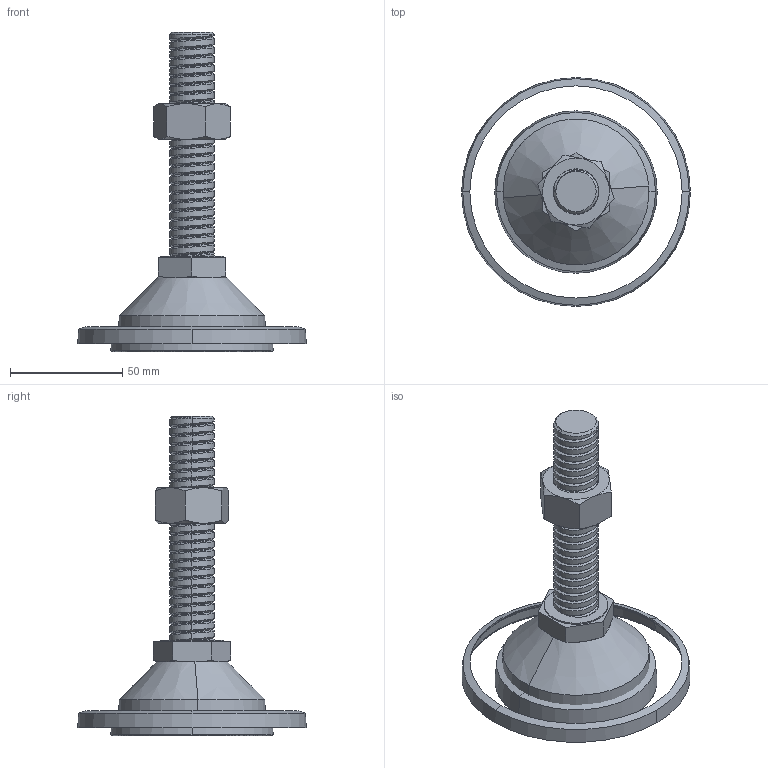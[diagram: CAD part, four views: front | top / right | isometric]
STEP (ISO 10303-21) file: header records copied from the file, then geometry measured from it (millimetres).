
FILE_DESCRIPTION (( 'STEP AP203' ), '1' );
FILE_NAME ('F106-1-20-L2.STEP', '2015-11-24T01:51:31', ( '' ), ( '' ), 'SwSTEP 2.0', 'SolidWorks 2014', '' );
FILE_SCHEMA (( 'CONFIG_CONTROL_DESIGN' ));
Length unit declared in the file: millimetre
Products named in the file (5): DS-M20X100L-12調整螺絲(壓花)-1; F106-1-20-L2; 70橡膠止滑墊-1-1; 70圓腳座-3-1; DS-M20螺帽-1
Assembly tree (4 placements, depth 2):
  F106-1-20-L2
    70橡膠止滑墊-1-1
    70圓腳座-3-1
    DS-M20螺帽-1
    DS-M20X100L-12調整螺絲(壓花)-1
Bounding box: 102.01 x 102.01 x 142.5 mm (x, y, z)
Volume: 131743 mm3; surface area: 48470.2 mm2
Topology: 5 solids, 5 shells, 520 faces, 1383 edges, 844 vertices
Faces by surface type: plane 284, cylinder 120, cone 67, bspline 45, torus 4
Entity records: 25061 total; most frequent: CARTESIAN_POINT 11974, ORIENTED_EDGE 2754, DIRECTION 2594, EDGE_CURVE 1377, AXIS2_PLACEMENT_3D 961, VERTEX_POINT 844, LINE 672, VECTOR 672
